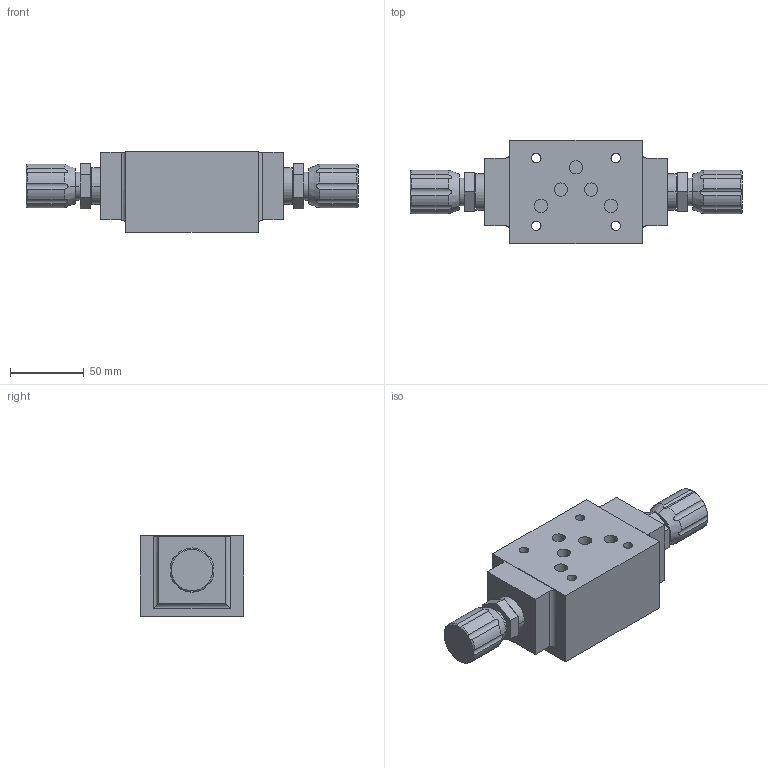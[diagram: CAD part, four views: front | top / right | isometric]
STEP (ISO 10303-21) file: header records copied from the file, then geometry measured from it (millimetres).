
FILE_DESCRIPTION (( 'STEP AP203' ), '1' );
FILE_NAME ('7DLA-03W等砃誹霜概.STEP', '2020-11-12T01:07:14', ( 'chen' ), ( '' ), 'SwSTEP 2.0', 'SolidWorks 2018', '' );
FILE_SCHEMA (( 'CONFIG_CONTROL_DESIGN' ));
Length unit declared in the file: millimetre
Products named in the file (1): 7DLA-03W等砃誹霜概
Bounding box: 225.46 x 70 x 55 mm (x, y, z)
Volume: 465432.6 mm3; surface area: 54720.5 mm2
Topology: 1 solids, 1 shells, 163 faces, 378 edges, 244 vertices
Faces by surface type: cylinder 90, plane 53, cone 20
Entity records: 5321 total; most frequent: CARTESIAN_POINT 1474, DIRECTION 806, ORIENTED_EDGE 756, EDGE_CURVE 378, AXIS2_PLACEMENT_3D 320, VERTEX_POINT 244, EDGE_LOOP 198, LINE 166
